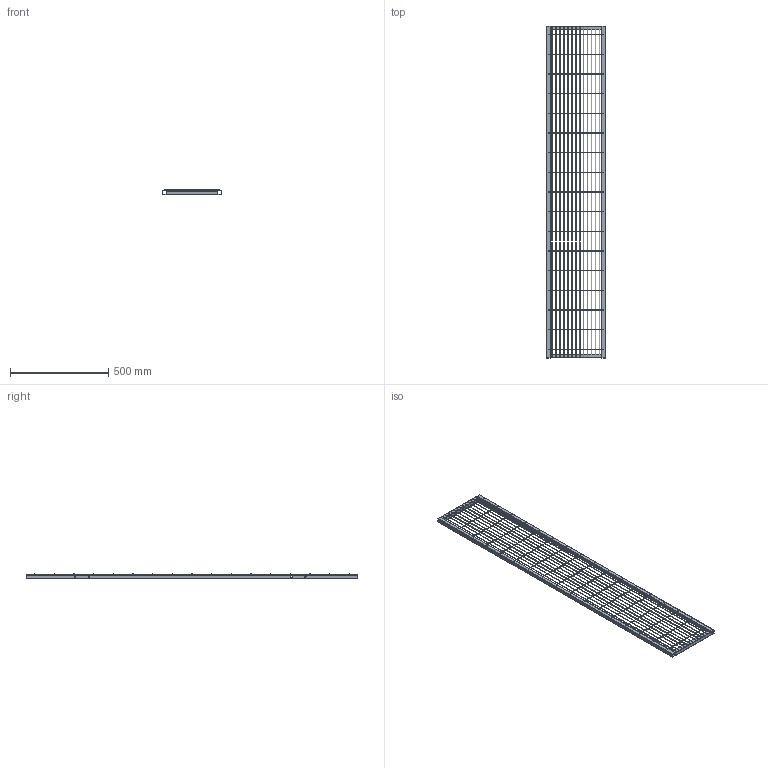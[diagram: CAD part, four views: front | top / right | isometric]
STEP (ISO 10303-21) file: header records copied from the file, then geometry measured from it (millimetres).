
FILE_DESCRIPTION (( 'STEP AP203' ), '1' );
FILE_NAME ('Framed Panel 300 x 1688.STEP', '2023-09-21T16:28:54', ( '' ), ( '' ), 'SwSTEP 2.0', 'SolidWorks 2023', '' );
FILE_SCHEMA (( 'CONFIG_CONTROL_DESIGN' ));
Length unit declared in the file: millimetre
Products named in the file (1): Framed Panel 300 x 1688
Bounding box: 300 x 1688 x 26 mm (x, y, z)
Volume: 606548.8 mm3; surface area: 810621.3 mm2
Topology: 34 solids, 34 shells, 224 faces, 468 edges, 312 vertices
Faces by surface type: cylinder 124, plane 100
Entity records: 6171 total; most frequent: DIRECTION 1166, CARTESIAN_POINT 1005, ORIENTED_EDGE 936, AXIS2_PLACEMENT_3D 473, EDGE_CURVE 468, VERTEX_POINT 312, EDGE_LOOP 264, CIRCLE 248
